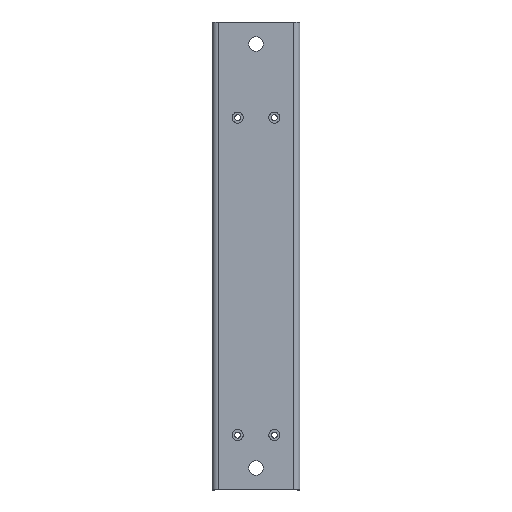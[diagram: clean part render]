
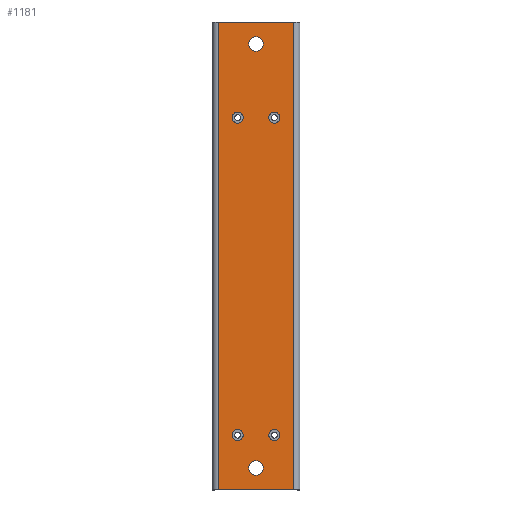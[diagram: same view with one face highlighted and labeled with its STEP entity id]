
A CAD part, top view. The second image highlights one B-rep face of the part: STEP entity #1181.
In plain terms, the highlighted planar face has unit normal (0, 0, 1).
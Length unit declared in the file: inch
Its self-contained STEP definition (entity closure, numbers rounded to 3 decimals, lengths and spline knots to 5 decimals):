
#376 = CARTESIAN_POINT ( 'NONE',  ( 0.875, 9.46, 0. ) ) ;
#378 = DIRECTION ( 'NONE',  ( 0., 0., 1. ) ) ;
#379 = CARTESIAN_POINT ( 'NONE',  ( 1.25, 9.46, 0. ) ) ;
#380 = AXIS2_PLACEMENT_3D ( 'NONE', #379, #378, #387 ) ;
#381 = CIRCLE ( 'NONE', #380, 0.375 ) ;
#386 = CARTESIAN_POINT ( 'NONE',  ( 1.625, 9.46, 0. ) ) ;
#387 = DIRECTION ( 'NONE',  ( 1., 0., 0. ) ) ;
#495 = CARTESIAN_POINT ( 'NONE',  ( -1.25, 9.46, 0. ) ) ;
#496 = AXIS2_PLACEMENT_3D ( 'NONE', #495, #503, #497 ) ;
#497 = DIRECTION ( 'NONE',  ( 1., 0., 0. ) ) ;
#498 = CIRCLE ( 'NONE', #496, 0.375 ) ;
#500 = CARTESIAN_POINT ( 'NONE',  ( -0.875, 9.46, 0. ) ) ;
#503 = DIRECTION ( 'NONE',  ( 0., 0., 1. ) ) ;
#565 = CARTESIAN_POINT ( 'NONE',  ( -0.5, -14.5, 0. ) ) ;
#612 = CARTESIAN_POINT ( 'NONE',  ( 1.25, -12.25, 0. ) ) ;
#616 = DIRECTION ( 'NONE',  ( 1., 0., 0. ) ) ;
#618 = DIRECTION ( 'NONE',  ( 0., 0., 1. ) ) ;
#619 = CIRCLE ( 'NONE', #620, 0.375 ) ;
#620 = AXIS2_PLACEMENT_3D ( 'NONE', #612, #618, #616 ) ;
#631 = CARTESIAN_POINT ( 'NONE',  ( 1.625, -12.25, 0. ) ) ;
#639 = CIRCLE ( 'NONE', #645, 0.5 ) ;
#640 = CARTESIAN_POINT ( 'NONE',  ( 0.5, -14.5, 0. ) ) ;
#642 = DIRECTION ( 'NONE',  ( 1., 0., 0. ) ) ;
#643 = DIRECTION ( 'NONE',  ( 0., 0., 1. ) ) ;
#644 = CARTESIAN_POINT ( 'NONE',  ( 0., -14.5, 0. ) ) ;
#645 = AXIS2_PLACEMENT_3D ( 'NONE', #644, #643, #642 ) ;
#680 = CARTESIAN_POINT ( 'NONE',  ( -0.875, -12.25, 0. ) ) ;
#770 = CARTESIAN_POINT ( 'NONE',  ( -1.625, 9.46, 0. ) ) ;
#838 = CARTESIAN_POINT ( 'NONE',  ( 0.5, 14.5, 0. ) ) ;
#882 = EDGE_CURVE ( 'NONE', #885, #883, #381, .T. ) ;
#883 = VERTEX_POINT ( 'NONE', #386 ) ;
#885 = VERTEX_POINT ( 'NONE', #376 ) ;
#897 = VERTEX_POINT ( 'NONE', #770 ) ;
#904 = VERTEX_POINT ( 'NONE', #838 ) ;
#941 = EDGE_CURVE ( 'NONE', #897, #942, #498, .T. ) ;
#942 = VERTEX_POINT ( 'NONE', #500 ) ;
#955 = VERTEX_POINT ( 'NONE', #565 ) ;
#980 = EDGE_CURVE ( 'NONE', #1047, #981, #619, .T. ) ;
#981 = VERTEX_POINT ( 'NONE', #631 ) ;
#985 = EDGE_CURVE ( 'NONE', #955, #986, #639, .T. ) ;
#986 = VERTEX_POINT ( 'NONE', #640 ) ;
#1005 = VERTEX_POINT ( 'NONE', #680 ) ;
#1035 = VERTEX_POINT ( 'NONE', #1446 ) ;
#1037 = EDGE_CURVE ( 'NONE', #1035, #904, #1445, .T. ) ;
#1044 = VERTEX_POINT ( 'NONE', #1490 ) ;
#1046 = EDGE_CURVE ( 'NONE', #1044, #1005, #1489, .T. ) ;
#1047 = VERTEX_POINT ( 'NONE', #1484 ) ;
#1082 = VERTEX_POINT ( 'NONE', #1464 ) ;
#1098 = VERTEX_POINT ( 'NONE', #1503 ) ;
#1128 = EDGE_CURVE ( 'NONE', #1308, #1098, #1580, .T. ) ;
#1169 = EDGE_CURVE ( 'NONE', #1005, #1044, #1631, .T. ) ;
#1171 = EDGE_LOOP ( 'NONE', ( #1231, #1233 ) ) ;
#1172 = EDGE_LOOP ( 'NONE', ( #1173, #1235 ) ) ;
#1173 = ORIENTED_EDGE ( 'NONE', *, *, #1169, .F. ) ;
#1175 = EDGE_CURVE ( 'NONE', #1098, #1082, #1625, .T. ) ;
#1181 = ADVANCED_FACE ( 'NONE', ( #1679, #1678, #1677, #1676, #1675, #1674, #1673 ), #1683, .T. ) ;
#1195 = ORIENTED_EDGE ( 'NONE', *, *, #985, .F. ) ;
#1196 = ORIENTED_EDGE ( 'NONE', *, *, #1199, .F. ) ;
#1197 = ORIENTED_EDGE ( 'NONE', *, *, #1128, .T. ) ;
#1198 = ORIENTED_EDGE ( 'NONE', *, *, #1037, .F. ) ;
#1199 = EDGE_CURVE ( 'NONE', #986, #955, #1717, .T. ) ;
#1200 = ORIENTED_EDGE ( 'NONE', *, *, #1204, .F. ) ;
#1202 = EDGE_LOOP ( 'NONE', ( #1205, #1200, #1197, #1221 ) ) ;
#1204 = EDGE_CURVE ( 'NONE', #1308, #1305, #1707, .T. ) ;
#1205 = ORIENTED_EDGE ( 'NONE', *, *, #1283, .F. ) ;
#1206 = EDGE_LOOP ( 'NONE', ( #1196, #1195 ) ) ;
#1210 = ORIENTED_EDGE ( 'NONE', *, *, #1212, .F. ) ;
#1212 = EDGE_CURVE ( 'NONE', #904, #1035, #1702, .T. ) ;
#1221 = ORIENTED_EDGE ( 'NONE', *, *, #1175, .T. ) ;
#1223 = ORIENTED_EDGE ( 'NONE', *, *, #941, .F. ) ;
#1224 = ORIENTED_EDGE ( 'NONE', *, *, #882, .F. ) ;
#1225 = ORIENTED_EDGE ( 'NONE', *, *, #1228, .F. ) ;
#1226 = EDGE_LOOP ( 'NONE', ( #1225, #1223 ) ) ;
#1227 = EDGE_LOOP ( 'NONE', ( #1210, #1198 ) ) ;
#1228 = EDGE_CURVE ( 'NONE', #942, #897, #1738, .T. ) ;
#1229 = EDGE_LOOP ( 'NONE', ( #1234, #1224 ) ) ;
#1230 = EDGE_CURVE ( 'NONE', #883, #885, #1734, .T. ) ;
#1231 = ORIENTED_EDGE ( 'NONE', *, *, #1232, .F. ) ;
#1232 = EDGE_CURVE ( 'NONE', #981, #1047, #1729, .T. ) ;
#1233 = ORIENTED_EDGE ( 'NONE', *, *, #980, .F. ) ;
#1234 = ORIENTED_EDGE ( 'NONE', *, *, #1230, .F. ) ;
#1235 = ORIENTED_EDGE ( 'NONE', *, *, #1046, .F. ) ;
#1283 = EDGE_CURVE ( 'NONE', #1305, #1082, #1851, .T. ) ;
#1305 = VERTEX_POINT ( 'NONE', #1867 ) ;
#1308 = VERTEX_POINT ( 'NONE', #1865 ) ;
#1441 = DIRECTION ( 'NONE',  ( 1., 0., 0. ) ) ;
#1442 = DIRECTION ( 'NONE',  ( 0., 0., 1. ) ) ;
#1443 = CARTESIAN_POINT ( 'NONE',  ( 0., 14.5, 0. ) ) ;
#1444 = AXIS2_PLACEMENT_3D ( 'NONE', #1443, #1442, #1441 ) ;
#1445 = CIRCLE ( 'NONE', #1444, 0.5 ) ;
#1446 = CARTESIAN_POINT ( 'NONE',  ( -0.5, 14.5, 0. ) ) ;
#1464 = CARTESIAN_POINT ( 'NONE',  ( -2.592, -16., 0. ) ) ;
#1484 = CARTESIAN_POINT ( 'NONE',  ( 0.875, -12.25, 0. ) ) ;
#1485 = DIRECTION ( 'NONE',  ( 1., 0., 0. ) ) ;
#1486 = DIRECTION ( 'NONE',  ( 0., 0., 1. ) ) ;
#1487 = CARTESIAN_POINT ( 'NONE',  ( -1.25, -12.25, 0. ) ) ;
#1488 = AXIS2_PLACEMENT_3D ( 'NONE', #1487, #1486, #1485 ) ;
#1489 = CIRCLE ( 'NONE', #1488, 0.375 ) ;
#1490 = CARTESIAN_POINT ( 'NONE',  ( -1.625, -12.25, 0. ) ) ;
#1503 = CARTESIAN_POINT ( 'NONE',  ( -2.592, 16., 0. ) ) ;
#1577 = DIRECTION ( 'NONE',  ( -1., 0., 0. ) ) ;
#1578 = VECTOR ( 'NONE', #1577, 39.37008 ) ;
#1579 = CARTESIAN_POINT ( 'NONE',  ( -3., 16., 0. ) ) ;
#1580 = LINE ( 'NONE', #1579, #1578 ) ;
#1622 = DIRECTION ( 'NONE',  ( 0., -1., 0. ) ) ;
#1623 = VECTOR ( 'NONE', #1622, 39.37008 ) ;
#1624 = CARTESIAN_POINT ( 'NONE',  ( -2.592, 16., 0. ) ) ;
#1625 = LINE ( 'NONE', #1624, #1623 ) ;
#1627 = DIRECTION ( 'NONE',  ( 1., 0., 0. ) ) ;
#1628 = DIRECTION ( 'NONE',  ( 0., 0., 1. ) ) ;
#1629 = CARTESIAN_POINT ( 'NONE',  ( -1.25, -12.25, 0. ) ) ;
#1630 = AXIS2_PLACEMENT_3D ( 'NONE', #1629, #1628, #1627 ) ;
#1631 = CIRCLE ( 'NONE', #1630, 0.375 ) ;
#1669 = DIRECTION ( 'NONE',  ( 1., 0., 0. ) ) ;
#1670 = DIRECTION ( 'NONE',  ( 0., 0., 1. ) ) ;
#1671 = CARTESIAN_POINT ( 'NONE',  ( -3., 16., 0. ) ) ;
#1672 = AXIS2_PLACEMENT_3D ( 'NONE', #1671, #1670, #1669 ) ;
#1673 = FACE_OUTER_BOUND ( 'NONE', #1202, .T. ) ;
#1674 = FACE_BOUND ( 'NONE', #1206, .T. ) ;
#1675 = FACE_BOUND ( 'NONE', #1227, .T. ) ;
#1676 = FACE_BOUND ( 'NONE', #1226, .T. ) ;
#1677 = FACE_BOUND ( 'NONE', #1229, .T. ) ;
#1678 = FACE_BOUND ( 'NONE', #1171, .T. ) ;
#1679 = FACE_BOUND ( 'NONE', #1172, .T. ) ;
#1683 = PLANE ( 'NONE',  #1672 ) ;
#1698 = DIRECTION ( 'NONE',  ( 1., 0., 0. ) ) ;
#1699 = DIRECTION ( 'NONE',  ( 0., 0., 1. ) ) ;
#1700 = CARTESIAN_POINT ( 'NONE',  ( 0., 14.5, 0. ) ) ;
#1701 = AXIS2_PLACEMENT_3D ( 'NONE', #1700, #1699, #1698 ) ;
#1702 = CIRCLE ( 'NONE', #1701, 0.5 ) ;
#1704 = DIRECTION ( 'NONE',  ( 0., -1., 0. ) ) ;
#1705 = VECTOR ( 'NONE', #1704, 39.37008 ) ;
#1706 = CARTESIAN_POINT ( 'NONE',  ( 2.592, 16., 0. ) ) ;
#1707 = LINE ( 'NONE', #1706, #1705 ) ;
#1713 = DIRECTION ( 'NONE',  ( 1., 0., 0. ) ) ;
#1714 = DIRECTION ( 'NONE',  ( 0., 0., 1. ) ) ;
#1715 = CARTESIAN_POINT ( 'NONE',  ( 0., -14.5, 0. ) ) ;
#1716 = AXIS2_PLACEMENT_3D ( 'NONE', #1715, #1714, #1713 ) ;
#1717 = CIRCLE ( 'NONE', #1716, 0.5 ) ;
#1725 = DIRECTION ( 'NONE',  ( 1., 0., 0. ) ) ;
#1726 = DIRECTION ( 'NONE',  ( 0., 0., 1. ) ) ;
#1727 = CARTESIAN_POINT ( 'NONE',  ( 1.25, -12.25, 0. ) ) ;
#1728 = AXIS2_PLACEMENT_3D ( 'NONE', #1727, #1726, #1725 ) ;
#1729 = CIRCLE ( 'NONE', #1728, 0.375 ) ;
#1730 = DIRECTION ( 'NONE',  ( 1., 0., 0. ) ) ;
#1731 = DIRECTION ( 'NONE',  ( 0., 0., 1. ) ) ;
#1732 = CARTESIAN_POINT ( 'NONE',  ( 1.25, 9.46, 0. ) ) ;
#1733 = AXIS2_PLACEMENT_3D ( 'NONE', #1732, #1731, #1730 ) ;
#1734 = CIRCLE ( 'NONE', #1733, 0.375 ) ;
#1735 = DIRECTION ( 'NONE',  ( 1., 0., 0. ) ) ;
#1736 = DIRECTION ( 'NONE',  ( 0., 0., 1. ) ) ;
#1737 = AXIS2_PLACEMENT_3D ( 'NONE', #1744, #1736, #1735 ) ;
#1738 = CIRCLE ( 'NONE', #1737, 0.375 ) ;
#1744 = CARTESIAN_POINT ( 'NONE',  ( -1.25, 9.46, 0. ) ) ;
#1848 = DIRECTION ( 'NONE',  ( -1., 0., 0. ) ) ;
#1849 = VECTOR ( 'NONE', #1848, 39.37008 ) ;
#1850 = CARTESIAN_POINT ( 'NONE',  ( -3., -16., 0. ) ) ;
#1851 = LINE ( 'NONE', #1850, #1849 ) ;
#1865 = CARTESIAN_POINT ( 'NONE',  ( 2.592, 16., 0. ) ) ;
#1867 = CARTESIAN_POINT ( 'NONE',  ( 2.592, -16., 0. ) ) ;
